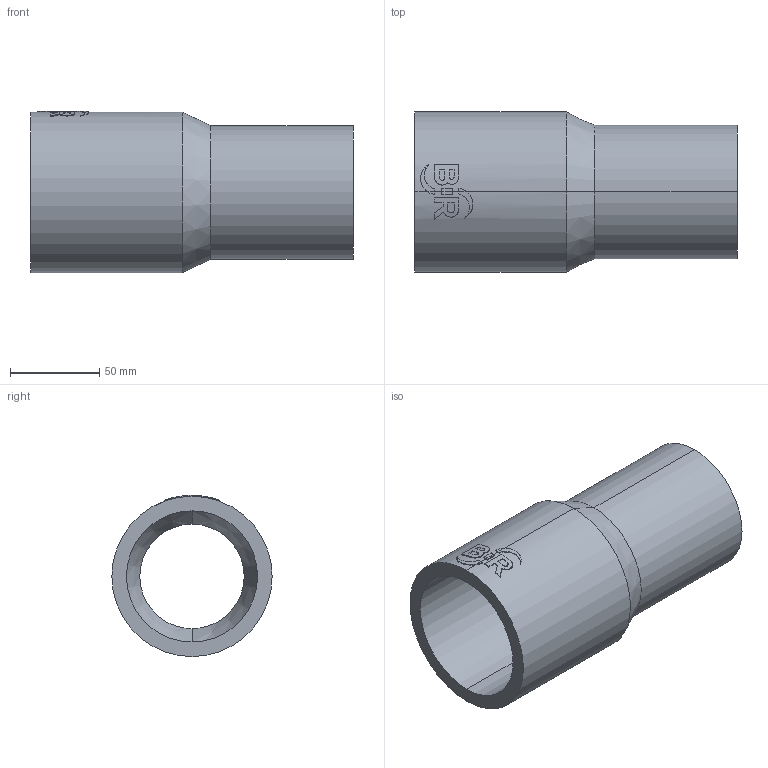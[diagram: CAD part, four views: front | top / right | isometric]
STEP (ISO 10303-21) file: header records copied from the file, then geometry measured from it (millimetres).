
FILE_DESCRIPTION (( 'STEP AP214' ), '1' );
FILE_NAME ('2323131215.STEP', '2018-07-20T12:32:48', ( '' ), ( '' ), 'SwSTEP 2.0', 'SolidWorks 2017', '' );
FILE_SCHEMA (( 'AUTOMOTIVE_DESIGN' ));
Length unit declared in the file: millimetre
Products named in the file (1): 2323131215
Bounding box: 181 x 90 x 90.46 mm (x, y, z)
Volume: 350402 mm3; surface area: 89378.2 mm2
Topology: 1 solids, 1 shells, 63 faces, 160 edges, 104 vertices
Faces by surface type: cylinder 31, plane 28, cone 4
Entity records: 3144 total; most frequent: CARTESIAN_POINT 935, ORIENTED_EDGE 320, DIRECTION 296, EDGE_CURVE 160, AXIS2_PLACEMENT_3D 112, VERTEX_POINT 104, VECTOR 72, LINE 72
